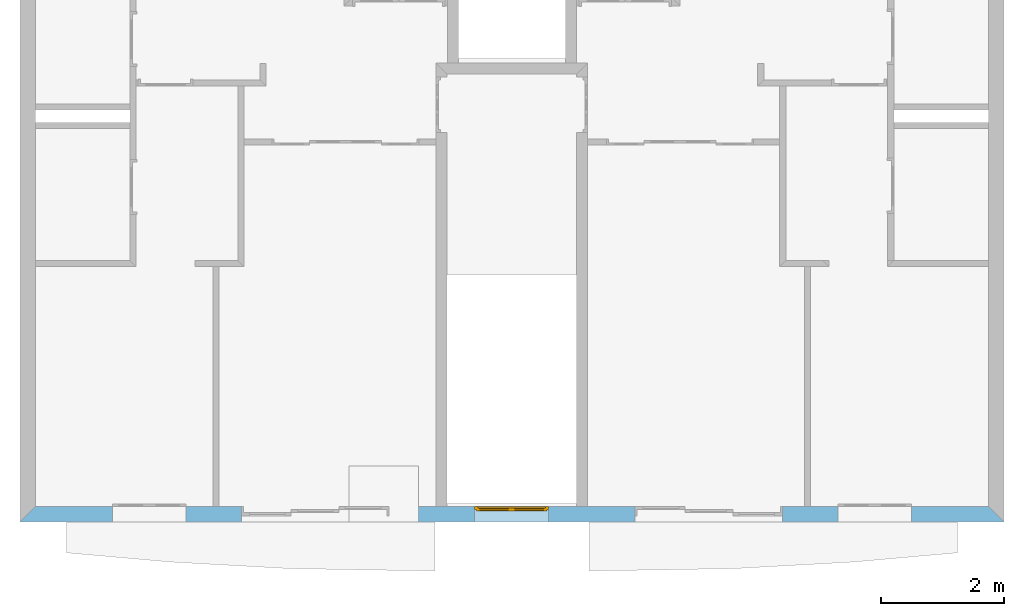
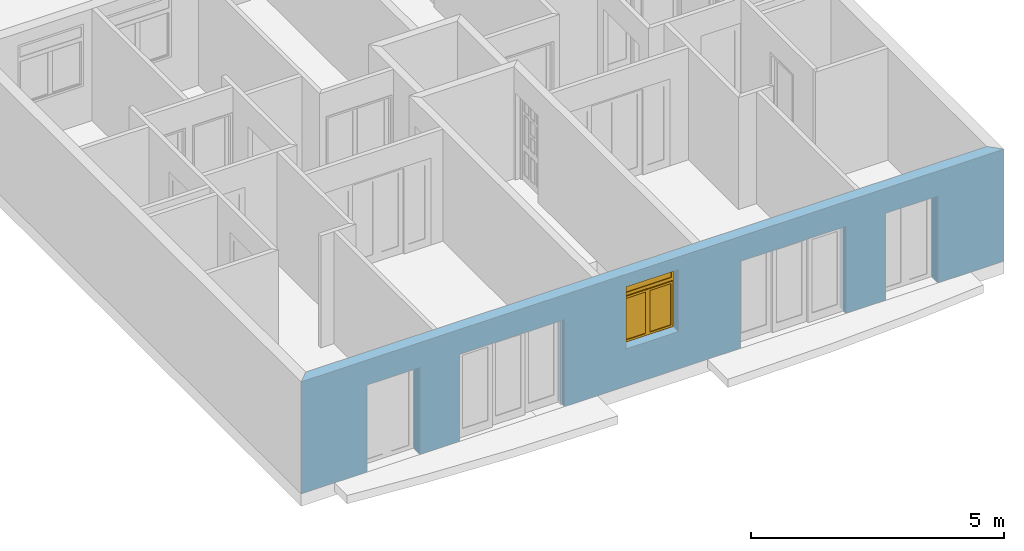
# One storey, part 3 of 12: 1 window, 5 openings, plus 1 element that does not belong to this part.
"""IFC2X3 building model written with IfcOpenShell, lengths in metres."""

from ifc_helpers import new_model, entity, si_unit, converted_unit, direction, frame, frame_2d, origin_with_axes, place, context, project, spatial, polyline, rectangle, outline, extrude, faceted_brep, source, transform, mapped, material, layer, layer_set, layer_usage, type_object, element, fill, save


model = new_model("IFC2X3")

# Units and contexts
context_of_model = context(None, 3, precision=1e-05, world=origin_with_axes(), true_north=direction((6.123234e-17, 1.0)))
plan_context = context("Plan", 3, precision=1e-05, world=origin_with_axes(), true_north=direction((6.123234e-17, 1.0)))
model_context = context("Model", 3, precision=1e-05, world=origin_with_axes(), true_north=direction((6.123234e-17, 1.0)))
ifc_project = project(units=[si_unit("LENGTHUNIT", "METRE"), si_unit("AREAUNIT", "SQUARE_METRE"), si_unit("VOLUMEUNIT", "CUBIC_METRE"), converted_unit("PLANEANGLEUNIT", "DEGREE", entity("IfcPlaneAngleMeasure", 0.017453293), si_unit("PLANEANGLEUNIT", "RADIAN"), dimensions=[0, 0, 0, 0, 0, 0, 0]), si_unit("SOLIDANGLEUNIT", "STERADIAN"), si_unit("MASSUNIT", "GRAM"), si_unit("TIMEUNIT", "SECOND"), si_unit("THERMODYNAMICTEMPERATUREUNIT", "DEGREE_CELSIUS"), si_unit("LUMINOUSINTENSITYUNIT", "LUMEN")], contexts=[context_of_model, plan_context, model_context])

# Site, building, storey
site_placement = place(None, origin_with_axes())
site = spatial("IfcSite", under=ifc_project, at=site_placement, Name="Por defecto Sitio", CompositionType="ELEMENT")
building_placement = place(site_placement, origin_with_axes())
building = spatial("IfcBuilding", under=site, at=building_placement, Name="Por defecto Edificio", CompositionType="ELEMENT")
storey_placement = place(building_placement, frame((0.0, 0.0, 4.2), z_axis=(0.0, 0.0, 1.0), x_axis=(1.0, 0.0, 0.0)))
storey = spatial("IfcBuildingStorey", under=building, at=storey_placement, Name="Primera", CompositionType="ELEMENT", Elevation=4.2)

# Wall, openings, window
ifc_material = material(Name="Ladrillo común")
ifc_layer = layer(ifc_material, 0.25, ventilated="UNKNOWN")
ifc_layer_set = layer_set([ifc_layer], Name="Ladrillo común")
ifc_layer_usage = layer_usage(ifc_layer_set, "AXIS2", "NEGATIVE", 0.0)
wall_type = type_object("IfcWallType", Name="Ladrillo común", PredefinedType="NOTDEFINED")
wall_placement = place(storey_placement, frame((16.03417, -1.1368684e-13, 0.0), z_axis=(0.0, 0.0, 1.0), x_axis=(-1.0, 7.0902852e-15, 0.0)))
wall = element("IfcWallStandardCase", 1, at=wall_placement, inside=storey, type_object=wall_type, material=ifc_layer_usage, Name="Muro-011", context=context_of_model, shape_type="SweptSolid", body=[
    extrude(outline(polyline([(0.25, -0.25), (15.78417, -0.25), (16.03417, 0.0), (0.0, 0.0), (0.25, -0.25)])), origin_with_axes(), (0.0, 0.0, 1.0), 2.7),
])
opening_1_placement = place(wall_placement, frame((13.926599, -0.25, 0.0), z_axis=(0.0, 0.0, 1.0), x_axis=(1.0, 0.0, 0.0)))
element("IfcOpeningElement", 2, at=opening_1_placement, cuts=wall, ObjectType="Opening", context=model_context, shape_type="SweptSolid", body=[
    extrude(rectangle(XDim=1.2, YDim=2.1, at=frame_2d((-1.7763568e-15, 1.05), x_axis=(-1.0, 0.0))), frame((0.0, 0.0, 0.0), z_axis=(0.0, 1.0, 0.0), x_axis=(-1.0, 0.0, 0.0)), (0.0, 0.0, 1.0), 0.25),
])
opening_2_placement = place(wall_placement, frame((2.1075705, -0.25, 0.0), z_axis=(0.0, 0.0, 1.0), x_axis=(1.0, 0.0, 0.0)))
element("IfcOpeningElement", 3, at=opening_2_placement, cuts=wall, ObjectType="Opening", context=model_context, shape_type="SweptSolid", body=[
    extrude(rectangle(XDim=1.2, YDim=2.1, at=frame_2d((-1.7763568e-15, 1.05), x_axis=(-1.0, 0.0))), frame((0.0, 0.0, 0.0), z_axis=(0.0, 1.0, 0.0), x_axis=(-1.0, 0.0, 0.0)), (0.0, 0.0, 1.0), 0.25),
])
opening_3_placement = place(wall_placement, frame((11.225136, -0.25, 0.0), z_axis=(0.0, 0.0, 1.0), x_axis=(1.0, 0.0, 0.0)))
element("IfcOpeningElement", 4, at=opening_3_placement, cuts=wall, ObjectType="Opening", context=model_context, shape_type="SweptSolid", body=[
    extrude(rectangle(XDim=2.4, YDim=2.1, at=frame_2d((-1.7763568e-15, 1.05), x_axis=(-1.0, 0.0))), frame((0.0, 0.0, 0.0), z_axis=(0.0, 1.0, 0.0), x_axis=(-1.0, 0.0, 0.0)), (0.0, 0.0, 1.0), 0.25),
])
opening_4_placement = place(wall_placement, frame((4.8090341, -0.25, 0.0), z_axis=(0.0, 0.0, 1.0), x_axis=(1.0, 0.0, 0.0)))
element("IfcOpeningElement", 5, at=opening_4_placement, cuts=wall, ObjectType="Opening", context=model_context, shape_type="SweptSolid", body=[
    extrude(rectangle(XDim=2.4, YDim=2.1, at=frame_2d((-1.7763568e-15, 1.05), x_axis=(-1.0, 0.0))), frame((0.0, 0.0, 0.0), z_axis=(0.0, 1.0, 0.0), x_axis=(-1.0, 0.0, 0.0)), (0.0, 0.0, 1.0), 0.25),
])
opening_5_placement = place(wall_placement, frame((8.0241698, -0.25, 0.9), z_axis=(0.0, 0.0, 1.0), x_axis=(1.0, 0.0, 0.0)))
opening_5 = element("IfcOpeningElement", 6, at=opening_5_placement, cuts=wall, ObjectType="Opening", context=model_context, shape_type="SweptSolid", body=[
    extrude(rectangle(XDim=1.2, YDim=1.5, at=frame_2d((-1.7763568e-15, 0.75), x_axis=(-1.0, 0.0))), frame((0.0, 0.0, 0.0), z_axis=(0.0, 1.0, 0.0), x_axis=(-1.0, 0.0, 0.0)), (0.0, 0.0, 1.0), 0.25),
])
window_style = type_object("IfcWindowStyle", Name="V M Doble 12", ConstructionType="NOTDEFINED", OperationType="DOUBLE_PANEL_HORIZONTAL", ParameterTakesPrecedence=False, Sizeable=False)
shared_shape = source(origin_with_axes(), model_context, "Body", "Brep", [
    faceted_brep([(1.175, 0.05, 0.05), (1.175, 0.05, 1.125), (1.15, 0.05, 1.125), (1.15, 0.05, 1.2), (1.15, 0.05, 1.45), (1.2, 0.05, 1.45), (1.2, 0.05, 0.05), (1.175, 0.025, 0.05), (1.175, 0.025, 1.125), (1.15, 0.025, 1.125), (1.15, 0.025, 1.1), (1.15, 5.978551e-14, 1.1), (1.15, 5.978551e-14, 1.2), (1.15, 5.978551e-14, 1.45), (1.2, 6.0146332e-14, 1.45), (1.2, 6.0063066e-14, 0.05), (1.15, 5.9702243e-14, 0.05), (1.15, 0.025, 0.05)], [[[0, 1, 2, 3, 4, 5, 6]], [[1, 0, 7, 8]], [[9, 2, 1, 8]], [[9, 10, 11, 12, 3, 2]], [[3, 12, 13, 4]], [[4, 13, 14, 5]], [[5, 14, 15, 6]], [[7, 0, 6, 15, 16, 17]], [[10, 9, 8, 7, 17]], [[10, 17, 16, 11]], [[12, 11, 16, 15, 14, 13]]]),
    faceted_brep([(0.025, 0.05, 1.125), (0.025, 0.05, 0.05), (1.7763568e-15, 0.05, 0.05), (1.7763568e-15, 0.05, 1.45), (0.05, 0.05, 1.45), (0.05, 0.05, 1.2), (0.05, 0.05, 1.125), (0.025, 0.025, 1.125), (0.025, 0.025, 0.05), (0.05, 0.025, 0.05), (0.05, 5.2180482e-14, 0.05), (1.7763568e-15, 5.1847415e-14, 0.05), (1.7763568e-15, 5.1930682e-14, 1.45), (0.05, 5.2263749e-14, 1.45), (0.05, 5.2263749e-14, 1.2), (0.05, 0.025, 1.125), (0.05, 5.2235993e-14, 1.1), (0.05, 0.025, 1.1)], [[[0, 1, 2, 3, 4, 5, 6]], [[1, 0, 7, 8]], [[8, 9, 10, 11, 2, 1]], [[2, 11, 12, 3]], [[3, 12, 13, 4]], [[4, 13, 14, 5]], [[15, 6, 5, 14, 16, 17]], [[0, 6, 15, 7]], [[9, 8, 7, 15, 17]], [[9, 17, 16, 10]], [[11, 10, 16, 14, 13, 12]]]),
    faceted_brep([(1.15, 0.05, 1.125), (0.6, 0.05, 1.125), (0.05, 0.05, 1.125), (0.05, 0.05, 1.2), (1.15, 0.05, 1.2), (1.15, 0.025, 1.125), (0.6, 0.025, 1.125), (0.05, 0.025, 1.125), (0.05, 0.025, 1.1), (0.05, 5.2235993e-14, 1.1), (0.05, 5.2263749e-14, 1.2), (1.15, 5.978551e-14, 1.2), (1.15, 5.978551e-14, 1.1), (1.15, 0.025, 1.1)], [[[0, 1, 2, 3, 4]], [[1, 0, 5, 6]], [[7, 2, 1, 6]], [[7, 8, 9, 10, 3, 2]], [[3, 10, 11, 4]], [[5, 0, 4, 11, 12, 13]], [[8, 7, 6, 5, 13]], [[8, 13, 12, 9]], [[10, 9, 12, 11]]]),
    faceted_brep([(0.05, 0.025, 0.05), (0.025, 0.025, 0.05), (0.025, 0.05, 0.05), (1.7763568e-15, 0.05, 0.05), (1.7763568e-15, 5.1847415e-14, 0.05), (0.05, 5.2180482e-14, 0.05), (1.15, 0.025, 0.05), (1.175, 0.025, 0.05), (1.175, 0.025, 0.025), (0.6, 0.025, 0.025), (0.025, 0.025, 0.025), (0.025, 0.05, 0.025), (1.175, 0.05, 0.025), (1.175, 0.05, 0.05), (1.2, 0.05, 0.05), (1.2, 0.05, 0.0), (1.7763568e-15, 0.05, 0.0), (0.6, 0.05, 0.025), (0.0, 0.0, 0.0), (1.2, 6.0063066e-14, 0.05), (1.15, 5.9702243e-14, 0.05), (1.2, 6.0063066e-14, 0.0)], [[[0, 1, 2, 3, 4, 5]], [[1, 0, 6, 7, 8, 9, 10]], [[11, 2, 1, 10]], [[12, 13, 14, 15, 16, 3, 2, 11, 17]], [[16, 18, 4, 3]], [[19, 20, 5, 4, 18, 21]], [[6, 0, 5, 20]], [[7, 6, 20, 19, 14, 13]], [[7, 13, 12, 8]], [[12, 17, 9, 8]], [[17, 11, 10, 9]], [[14, 19, 21, 15]], [[15, 21, 18, 16]]]),
    faceted_brep([(0.05, 5.2263749e-14, 1.45), (1.7763568e-15, 5.1930682e-14, 1.45), (1.7763568e-15, 0.05, 1.45), (0.05, 0.05, 1.45), (1.15, 5.978551e-14, 1.45), (1.2, 6.0146332e-14, 1.45), (1.2, 6.0146332e-14, 1.5), (1.7763568e-15, 5.1958438e-14, 1.5), (1.7763568e-15, 0.05, 1.5), (1.2, 0.05, 1.5), (1.2, 0.05, 1.45), (1.15, 0.05, 1.45)], [[[0, 1, 2, 3]], [[0, 4, 5, 6, 7, 1]], [[1, 7, 8, 2]], [[3, 2, 8, 9, 10, 11]], [[4, 0, 3, 11]], [[5, 4, 11, 10]], [[6, 5, 10, 9]], [[7, 6, 9, 8]]]),
    faceted_brep([(0.075, 0.025, 0.075), (0.075, 0.075, 0.075), (0.075, 0.075, 1.075), (0.075, 0.025, 1.075), (0.025, 0.025, 0.075), (0.025, 0.075, 0.075), (0.025, 0.075, 1.075), (0.025, 0.025, 1.075)], [[[0, 1, 2, 3]], [[4, 5, 1, 0]], [[1, 5, 6, 2]], [[3, 2, 6, 7]], [[0, 3, 7, 4]], [[7, 6, 5, 4]]]),
    faceted_brep([(0.6, 0.025, 0.075), (0.6, 0.075, 0.075), (0.6, 0.075, 1.075), (0.6, 0.025, 1.075), (0.55, 0.025, 0.075), (0.55, 0.075, 0.075), (0.55, 0.075, 1.075), (0.55, 0.025, 1.075)], [[[0, 1, 2, 3]], [[4, 5, 1, 0]], [[1, 5, 6, 2]], [[3, 2, 6, 7]], [[0, 3, 7, 4]], [[7, 6, 5, 4]]]),
    faceted_brep([(0.6, 0.025, 0.025), (0.6, 0.075, 0.025), (0.6, 0.075, 0.075), (0.6, 0.025, 0.075), (0.025, 0.025, 0.025), (0.025, 0.075, 0.025), (0.025, 0.075, 0.075), (0.075, 0.075, 0.075), (0.55, 0.075, 0.075), (0.55, 0.025, 0.075), (0.075, 0.025, 0.075), (0.025, 0.025, 0.075)], [[[0, 1, 2, 3]], [[4, 5, 1, 0]], [[1, 5, 6, 7, 8, 2]], [[3, 2, 8, 9]], [[0, 3, 9, 10, 11, 4]], [[11, 6, 5, 4]], [[10, 7, 6, 11]], [[9, 8, 7, 10]]]),
    faceted_brep([(0.025, 0.025, 1.125), (0.025, 0.075, 1.125), (0.025, 0.075, 1.075), (0.025, 0.025, 1.075), (0.6, 0.025, 1.125), (0.6, 0.075, 1.125), (0.6, 0.075, 1.075), (0.55, 0.075, 1.075), (0.075, 0.075, 1.075), (0.075, 0.025, 1.075), (0.55, 0.025, 1.075), (0.6, 0.025, 1.075)], [[[0, 1, 2, 3]], [[4, 5, 1, 0]], [[1, 5, 6, 7, 8, 2]], [[3, 2, 8, 9]], [[0, 3, 9, 10, 11, 4]], [[11, 6, 5, 4]], [[10, 7, 6, 11]], [[9, 8, 7, 10]]]),
    faceted_brep([(0.075, 0.04, 0.075), (0.075, 0.06, 0.075), (0.55, 0.06, 0.075), (0.55, 0.04, 0.075), (0.075, 0.04, 1.075), (0.075, 0.06, 1.075), (0.55, 0.06, 1.075), (0.55, 0.04, 1.075)], [[[0, 1, 2, 3]], [[4, 5, 1, 0]], [[1, 5, 6, 2]], [[3, 2, 6, 7]], [[0, 3, 7, 4]], [[7, 6, 5, 4]]]),
    faceted_brep([(0.65, 0.025, 0.075), (0.65, 0.075, 0.075), (0.65, 0.075, 1.075), (0.65, 0.025, 1.075), (0.6, 0.025, 0.075), (0.6, 0.075, 0.075), (0.6, 0.075, 1.075), (0.6, 0.025, 1.075)], [[[0, 1, 2, 3]], [[4, 5, 1, 0]], [[1, 5, 6, 2]], [[3, 2, 6, 7]], [[0, 3, 7, 4]], [[7, 6, 5, 4]]]),
    faceted_brep([(1.175, 0.025, 0.075), (1.175, 0.075, 0.075), (1.175, 0.075, 1.075), (1.175, 0.025, 1.075), (1.125, 0.025, 0.075), (1.125, 0.075, 0.075), (1.125, 0.075, 1.075), (1.125, 0.025, 1.075)], [[[0, 1, 2, 3]], [[4, 5, 1, 0]], [[1, 5, 6, 2]], [[3, 2, 6, 7]], [[0, 3, 7, 4]], [[7, 6, 5, 4]]]),
    faceted_brep([(1.175, 0.025, 0.025), (1.175, 0.075, 0.025), (1.175, 0.075, 0.075), (1.175, 0.025, 0.075), (0.6, 0.025, 0.025), (0.6, 0.075, 0.025), (0.6, 0.075, 0.075), (0.65, 0.075, 0.075), (1.125, 0.075, 0.075), (1.125, 0.025, 0.075), (0.65, 0.025, 0.075), (0.6, 0.025, 0.075)], [[[0, 1, 2, 3]], [[4, 5, 1, 0]], [[1, 5, 6, 7, 8, 2]], [[3, 2, 8, 9]], [[0, 3, 9, 10, 11, 4]], [[11, 6, 5, 4]], [[10, 7, 6, 11]], [[9, 8, 7, 10]]]),
    faceted_brep([(0.6, 0.025, 1.125), (0.6, 0.075, 1.125), (0.6, 0.075, 1.075), (0.6, 0.025, 1.075), (1.175, 0.025, 1.125), (1.175, 0.075, 1.125), (1.175, 0.075, 1.075), (1.125, 0.075, 1.075), (0.65, 0.075, 1.075), (0.65, 0.025, 1.075), (1.125, 0.025, 1.075), (1.175, 0.025, 1.075)], [[[0, 1, 2, 3]], [[4, 5, 1, 0]], [[1, 5, 6, 7, 8, 2]], [[3, 2, 8, 9]], [[0, 3, 9, 10, 11, 4]], [[11, 6, 5, 4]], [[10, 7, 6, 11]], [[9, 8, 7, 10]]]),
    faceted_brep([(0.65, 0.04, 0.075), (0.65, 0.06, 0.075), (1.125, 0.06, 0.075), (1.125, 0.04, 0.075), (0.65, 0.04, 1.075), (0.65, 0.06, 1.075), (1.125, 0.06, 1.075), (1.125, 0.04, 1.075)], [[[0, 1, 2, 3]], [[4, 5, 1, 0]], [[1, 5, 6, 2]], [[3, 2, 6, 7]], [[0, 3, 7, 4]], [[7, 6, 5, 4]]]),
    faceted_brep([(0.05, 0.015, 1.2), (0.05, 0.035, 1.2), (1.15, 0.035, 1.2), (1.15, 0.015, 1.2), (0.05, 0.015, 1.45), (0.05, 0.035, 1.45), (1.15, 0.035, 1.45), (1.15, 0.015, 1.45)], [[[0, 1, 2, 3]], [[4, 5, 1, 0]], [[1, 5, 6, 2]], [[3, 2, 6, 7]], [[0, 3, 7, 4]], [[7, 6, 5, 4]]]),
])
window_placement = place(opening_5_placement, frame((-0.6, 0.0, 0.0), z_axis=(0.0, 0.0, 1.0), x_axis=(1.0, 0.0, 0.0)))
window = element("IfcWindow", 7, at=window_placement, inside=storey, type_object=window_style, Name="V10", OverallHeight=1.5, OverallWidth=1.2, context=model_context, shape_type="MappedRepresentation", body=[
    mapped(shared_shape, transform((0.0, 0.0, 0.0), scale=1.0)),
])
fill(opening_5, window)

save(model, "model.ifc")
